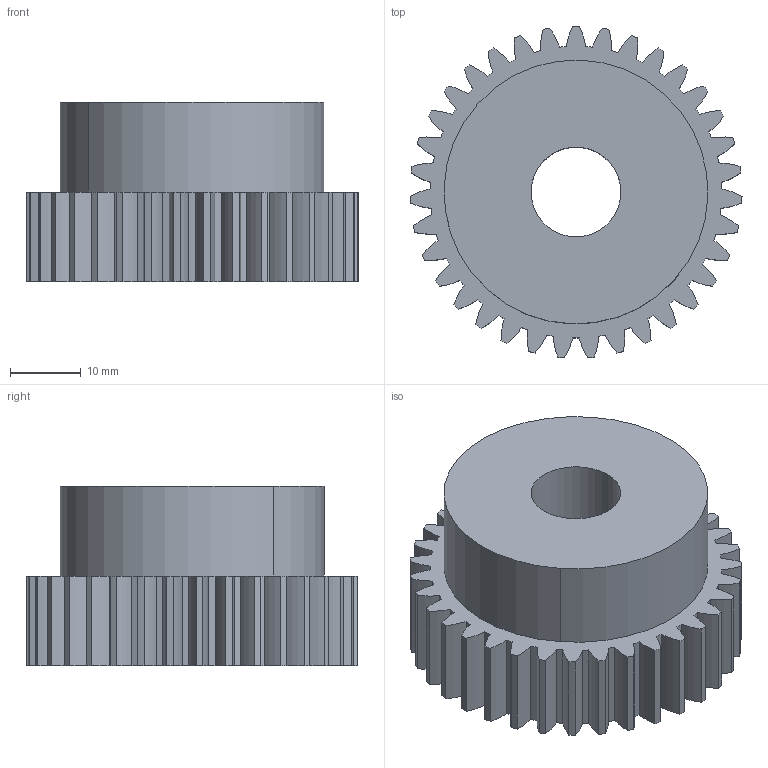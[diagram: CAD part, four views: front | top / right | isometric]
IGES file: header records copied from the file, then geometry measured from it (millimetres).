
Global section: file name: C:\Documents and Settings\Administrator\Desktop\Transfer Temp\gss-2035.igs; native system: AutoDesk Inventor R2.0 ; preprocessor: AutoDesk Inventor Iges Exporter R2.0; author: No Author specified; organization: No Organization specified; date: 20011229.165255; units: inch
Bounding box: 46.98 x 46.93 x 25.4 mm (x, y, z)
Surface area: 8872.4 mm2 (no closed solid volume)
Topology: 0 solids, 0 shells, 147 faces, 864 edges, 864 vertices
Faces by surface type: revolution 142, bspline 5
